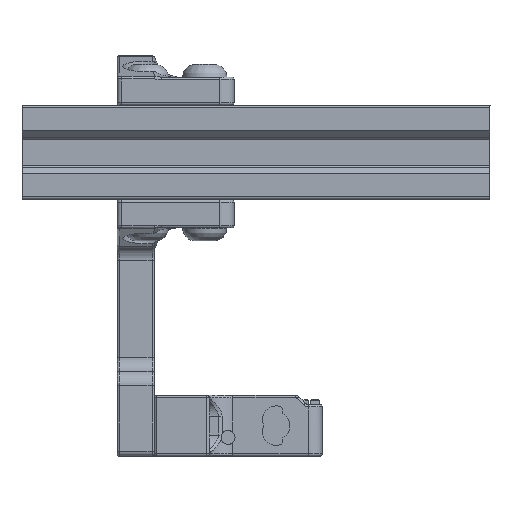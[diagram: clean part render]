
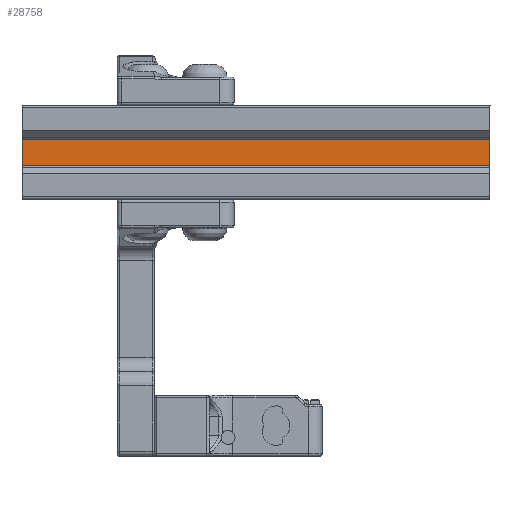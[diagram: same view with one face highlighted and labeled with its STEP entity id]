
A CAD part, front view. The second image highlights one B-rep face of the part: STEP entity #28758.
In plain terms, the highlighted planar face has unit normal (0, -1, 0).
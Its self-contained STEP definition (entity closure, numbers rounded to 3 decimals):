
#1312=PLANE('',#31705);
#3117=FACE_OUTER_BOUND('',#4876,.T.);
#4876=EDGE_LOOP('',(#26289,#26290,#26291,#26292));
#8839=LINE('',#107887,#10752);
#8959=LINE('',#108138,#10872);
#8960=LINE('',#108141,#10873);
#8961=LINE('',#108142,#10874);
#10752=VECTOR('',#38517,10.);
#10872=VECTOR('',#38755,10.);
#10873=VECTOR('',#38758,10.);
#10874=VECTOR('',#38759,10.);
#13508=VERTEX_POINT('',#107884);
#13509=VERTEX_POINT('',#107886);
#13581=VERTEX_POINT('',#108136);
#13582=VERTEX_POINT('',#108140);
#17710=EDGE_CURVE('',#13508,#13509,#8839,.T.);
#17836=EDGE_CURVE('',#13508,#13581,#8959,.T.);
#17837=EDGE_CURVE('',#13582,#13581,#8960,.F.);
#17838=EDGE_CURVE('',#13509,#13582,#8961,.T.);
#26289=ORIENTED_EDGE('',*,*,#17710,.F.);
#26290=ORIENTED_EDGE('',*,*,#17836,.T.);
#26291=ORIENTED_EDGE('',*,*,#17837,.F.);
#26292=ORIENTED_EDGE('',*,*,#17838,.F.);
#28758=ADVANCED_FACE('',(#3117),#1312,.T.);
#31705=AXIS2_PLACEMENT_3D('',#108139,#38756,#38757);
#38517=DIRECTION('',(0.,0.,1.));
#38755=DIRECTION('',(1.,0.,0.));
#38756=DIRECTION('center_axis',(0.,-1.,0.));
#38757=DIRECTION('ref_axis',(0.,0.,
-1.));
#38758=DIRECTION('',(0.,0.,1.));
#38759=DIRECTION('',(1.,0.,0.));
#107884=CARTESIAN_POINT('',(76.7,66.95,60.865));
#107886=CARTESIAN_POINT('',(76.7,66.95,66.555));
#107887=CARTESIAN_POINT('',(76.7,66.95,65.133));
#108136=CARTESIAN_POINT('',(176.7,66.95,60.865));
#108138=CARTESIAN_POINT('',(26.7,66.95,60.865));
#108139=CARTESIAN_POINT('Origin',(26.7,66.95,66.555));
#108140=CARTESIAN_POINT('',(176.7,66.95,66.555));
#108141=CARTESIAN_POINT('',(176.7,66.95,65.132));
#108142=CARTESIAN_POINT('',(26.7,66.95,66.555));
